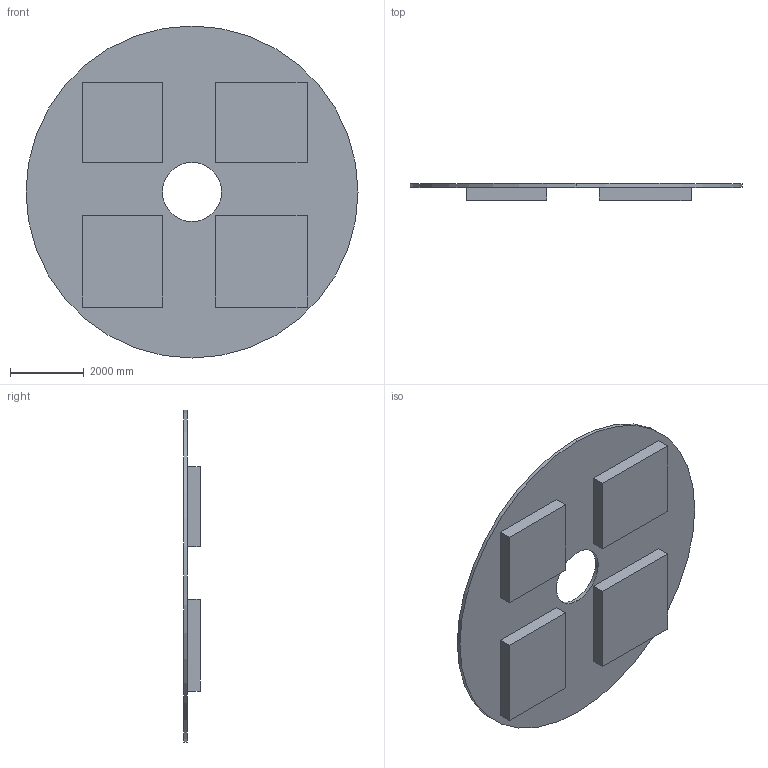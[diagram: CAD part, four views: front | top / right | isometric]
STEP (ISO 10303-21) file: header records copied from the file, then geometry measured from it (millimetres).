
FILE_DESCRIPTION (( 'STEP AP203' ), '1' );
FILE_NAME ('CL_05_Laser_PV_Receiver_Dish.STEP', '2026-10-28T18:34:19', ( '' ), ( '' ), 'SwSTEP 2.0', 'SolidWorks 2026', '' );
FILE_SCHEMA (( 'CONFIG_CONTROL_DESIGN' ));
Length unit declared in the file: inch
Products named in the file (1): CL_05_Laser_PV_Receiver_Dish
Bounding box: 9000 x 450 x 9000 mm (x, y, z)
Volume: 13783663193.7 mm3; surface area: 139610685.4 mm2
Topology: 1 solids, 1 shells, 26 faces, 60 edges, 40 vertices
Faces by surface type: plane 22, cylinder 4
Entity records: 815 total; most frequent: CARTESIAN_POINT 127, DIRECTION 122, ORIENTED_EDGE 120, EDGE_CURVE 60, LINE 52, VECTOR 52, VERTEX_POINT 40, AXIS2_PLACEMENT_3D 35
